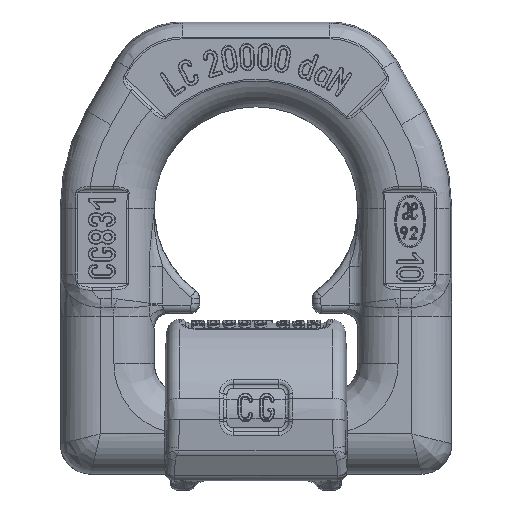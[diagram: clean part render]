
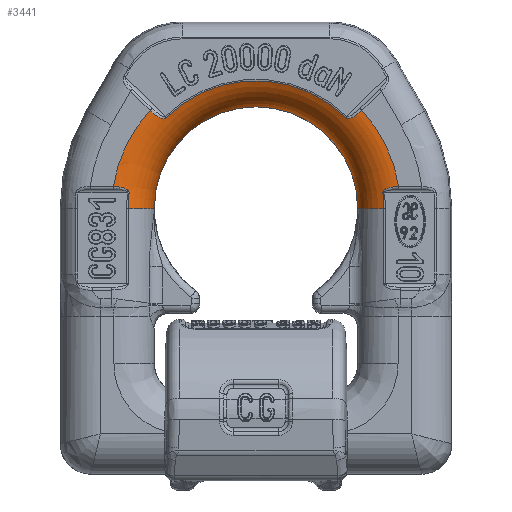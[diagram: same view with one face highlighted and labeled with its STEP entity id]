
A CAD part, front view. The second image highlights one B-rep face of the part: STEP entity #3441.
In plain terms, the highlighted toroidal (fillet/blend) face has major radius 47.552 mm and minor radius 14 mm.
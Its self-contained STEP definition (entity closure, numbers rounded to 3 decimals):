
#1460=TOROIDAL_SURFACE('',#28042,47.552,14.);
#1704=FACE_OUTER_BOUND('',#6703,.T.);
#3441=ADVANCED_FACE('',(#1704),#1460,.T.);
#5636=B_SPLINE_CURVE_WITH_KNOTS('',3,(#39396,#39397,#39398,#39399,#39400,
#39401,#39402,#39403),.UNSPECIFIED.,.F.,.F.,(4,2,2,4),(0.,0.25,0.5,1.),.UNSPECIFIED.);
#5637=B_SPLINE_CURVE_WITH_KNOTS('',3,(#39404,#39405,#39406,#39407,#39408,
#39409,#39410,#39411),.UNSPECIFIED.,.F.,.F.,(4,2,2,4),(0.,0.5,
0.75,1.),.UNSPECIFIED.);
#5638=B_SPLINE_CURVE_WITH_KNOTS('',3,(#39415,#39416,#39417,#39418,#39419,
#39420,#39421,#39422),.UNSPECIFIED.,.F.,.F.,(4,2,2,4),(0.,0.25,0.5,1.),.UNSPECIFIED.);
#5639=B_SPLINE_CURVE_WITH_KNOTS('',3,(#39423,#39424,#39425,#39426,#39427,
#39428,#39429,#39430),.UNSPECIFIED.,.F.,.F.,(4,2,2,4),(0.,0.5,0.75,1.),.UNSPECIFIED.);
#6703=EDGE_LOOP('',(#11986,#11987,#11988,#11989,#11990,#11991,#11992,#11993,
#11994,#11995,#11996,#11997));
#11986=ORIENTED_EDGE('',*,*,#22669,.F.);
#11987=ORIENTED_EDGE('',*,*,#22670,.T.);
#11988=ORIENTED_EDGE('',*,*,#22671,.T.);
#11989=ORIENTED_EDGE('',*,*,#22664,.F.);
#11990=ORIENTED_EDGE('',*,*,#22672,.T.);
#11991=ORIENTED_EDGE('',*,*,#22673,.T.);
#11992=ORIENTED_EDGE('',*,*,#22674,.T.);
#11993=ORIENTED_EDGE('',*,*,#22659,.F.);
#11994=ORIENTED_EDGE('',*,*,#22675,.T.);
#11995=ORIENTED_EDGE('',*,*,#22676,.T.);
#11996=ORIENTED_EDGE('',*,*,#22677,.T.);
#11997=ORIENTED_EDGE('',*,*,#22678,.F.);
#20216=VERTEX_POINT('',#39370);
#20217=VERTEX_POINT('',#39371);
#20221=VERTEX_POINT('',#39381);
#20222=VERTEX_POINT('',#39382);
#20226=VERTEX_POINT('',#39392);
#20227=VERTEX_POINT('',#39393);
#20228=VERTEX_POINT('',#39395);
#20229=VERTEX_POINT('',#39412);
#20230=VERTEX_POINT('',#39414);
#20231=VERTEX_POINT('',#39431);
#20232=VERTEX_POINT('',#39433);
#20233=VERTEX_POINT('',#39435);
#22659=EDGE_CURVE('',#20216,#20217,#26557,.T.);
#22664=EDGE_CURVE('',#20221,#20222,#26559,.T.);
#22669=EDGE_CURVE('',#20226,#20227,#26561,.T.);
#22670=EDGE_CURVE('',#20226,#20228,#26562,.T.);
#22671=EDGE_CURVE('',#20228,#20222,#5636,.T.);
#22672=EDGE_CURVE('',#20221,#20229,#5637,.T.);
#22673=EDGE_CURVE('',#20229,#20230,#26563,.T.);
#22674=EDGE_CURVE('',#20230,#20217,#5638,.T.);
#22675=EDGE_CURVE('',#20216,#20231,#5639,.T.);
#22676=EDGE_CURVE('',#20231,#20232,#26564,.T.);
#22677=EDGE_CURVE('',#20232,#20233,#26565,.T.);
#22678=EDGE_CURVE('',#20227,#20233,#26566,.T.);
#26557=CIRCLE('',#28030,47.552);
#26559=CIRCLE('',#28033,47.552);
#26561=CIRCLE('',#28036,14.);
#26562=CIRCLE('',#28037,42.127);
#26563=CIRCLE('',#28038,42.127);
#26564=CIRCLE('',#28039,42.127);
#26565=CIRCLE('',#28040,14.);
#26566=CIRCLE('',#28041,33.586);
#28030=AXIS2_PLACEMENT_3D('',#39369,#31425,#31426);
#28033=AXIS2_PLACEMENT_3D('',#39380,#31434,#31435);
#28036=AXIS2_PLACEMENT_3D('',#39391,#31443,#31444);
#28037=AXIS2_PLACEMENT_3D('',#39394,#31445,#31446);
#28038=AXIS2_PLACEMENT_3D('',#39413,#31447,#31448);
#28039=AXIS2_PLACEMENT_3D('',#39432,#31449,#31450);
#28040=AXIS2_PLACEMENT_3D('',#39434,#31451,#31452);
#28041=AXIS2_PLACEMENT_3D('',#39436,#31453,#31454);
#28042=AXIS2_PLACEMENT_3D('',#39437,#31455,#31456);
#31425=DIRECTION('',(0.,1.,0.));
#31426=DIRECTION('',(1.,0.,0.));
#31434=DIRECTION('',(0.,1.,0.));
#31435=DIRECTION('',(1.,0.,0.));
#31443=DIRECTION('',(0.,0.,-1.));
#31444=DIRECTION('',(0.,1.,0.));
#31445=DIRECTION('',(0.,-1.,0.));
#31446=DIRECTION('',(-1.,0.,0.));
#31447=DIRECTION('',(0.,-1.,0.));
#31448=DIRECTION('',(-1.,0.,0.));
#31449=DIRECTION('',(0.,-1.,0.));
#31450=DIRECTION('',(-1.,0.,0.));
#31451=DIRECTION('',(0.,0.,1.));
#31452=DIRECTION('',(0.,-1.,0.));
#31453=DIRECTION('',(0.,-1.,0.));
#31454=DIRECTION('',(-1.,0.,0.));
#31455=DIRECTION('',(0.,-1.,0.));
#31456=DIRECTION('',(1.,0.,0.));
#39369=CARTESIAN_POINT('',(0.,-14.25,74.25));
#39370=CARTESIAN_POINT('',(-46.999,-14.25,81.482));
#39371=CARTESIAN_POINT('',(-34.868,-14.25,106.582));
#39380=CARTESIAN_POINT('',(0.,-14.25,74.25));
#39381=CARTESIAN_POINT('',(34.868,-14.25,106.582));
#39382=CARTESIAN_POINT('',(46.999,-14.25,81.482));
#39391=CARTESIAN_POINT('',(47.552,-0.25,74.25));
#39392=CARTESIAN_POINT('',(42.127,-13.156,74.25));
#39393=CARTESIAN_POINT('',(33.586,-1.227,74.25));
#39394=CARTESIAN_POINT('',(0.,-13.156,74.25));
#39395=CARTESIAN_POINT('',(41.82,-13.156,79.328));
#39396=CARTESIAN_POINT('',(41.82,-13.156,79.328));
#39397=CARTESIAN_POINT('',(41.756,-13.156,79.855));
#39398=CARTESIAN_POINT('',(42.133,-13.341,80.31));
#39399=CARTESIAN_POINT('',(42.961,-13.649,80.854));
#39400=CARTESIAN_POINT('',(43.444,-13.794,81.019));
#39401=CARTESIAN_POINT('',(44.928,-14.137,81.39));
#39402=CARTESIAN_POINT('',(45.956,-14.25,81.468));
#39403=CARTESIAN_POINT('',(46.999,-14.25,81.482));
#39404=CARTESIAN_POINT('',(34.868,-14.25,106.582));
#39405=CARTESIAN_POINT('',(34.107,-14.25,105.841));
#39406=CARTESIAN_POINT('',(33.297,-14.127,105.154));
#39407=CARTESIAN_POINT('',(31.968,-13.779,104.36));
#39408=CARTESIAN_POINT('',(31.503,-13.635,104.133));
#39409=CARTESIAN_POINT('',(30.507,-13.332,103.905));
#39410=CARTESIAN_POINT('',(29.919,-13.156,103.911));
#39411=CARTESIAN_POINT('',(29.534,-13.156,104.291));
#39412=CARTESIAN_POINT('',(29.534,-13.156,104.291));
#39413=CARTESIAN_POINT('',(0.,-13.156,74.25));
#39414=CARTESIAN_POINT('',(-29.534,-13.156,104.291));
#39415=CARTESIAN_POINT('',(-29.534,-13.156,104.291));
#39416=CARTESIAN_POINT('',(-29.92,-13.156,103.911));
#39417=CARTESIAN_POINT('',(-30.515,-13.335,103.907));
#39418=CARTESIAN_POINT('',(-31.501,-13.634,104.133));
#39419=CARTESIAN_POINT('',(-31.969,-13.78,104.36));
#39420=CARTESIAN_POINT('',(-33.306,-14.129,105.16));
#39421=CARTESIAN_POINT('',(-34.106,-14.25,105.841));
#39422=CARTESIAN_POINT('',(-34.868,-14.25,106.582));
#39423=CARTESIAN_POINT('',(-46.999,-14.25,81.482));
#39424=CARTESIAN_POINT('',(-45.956,-14.25,81.468));
#39425=CARTESIAN_POINT('',(-44.914,-14.134,81.387));
#39426=CARTESIAN_POINT('',(-43.442,-13.793,81.019));
#39427=CARTESIAN_POINT('',(-42.959,-13.648,80.853));
#39428=CARTESIAN_POINT('',(-42.129,-13.339,80.307));
#39429=CARTESIAN_POINT('',(-41.756,-13.156,79.854));
#39430=CARTESIAN_POINT('',(-41.82,-13.156,79.328));
#39431=CARTESIAN_POINT('',(-41.82,-13.156,79.328));
#39432=CARTESIAN_POINT('',(0.,-13.156,74.25));
#39433=CARTESIAN_POINT('',(-42.127,-13.156,74.25));
#39434=CARTESIAN_POINT('',(-47.552,-0.25,74.25));
#39435=CARTESIAN_POINT('',(-33.586,-1.227,74.25));
#39436=CARTESIAN_POINT('',(0.,-1.227,74.25));
#39437=CARTESIAN_POINT('',(0.,-0.25,74.25));
